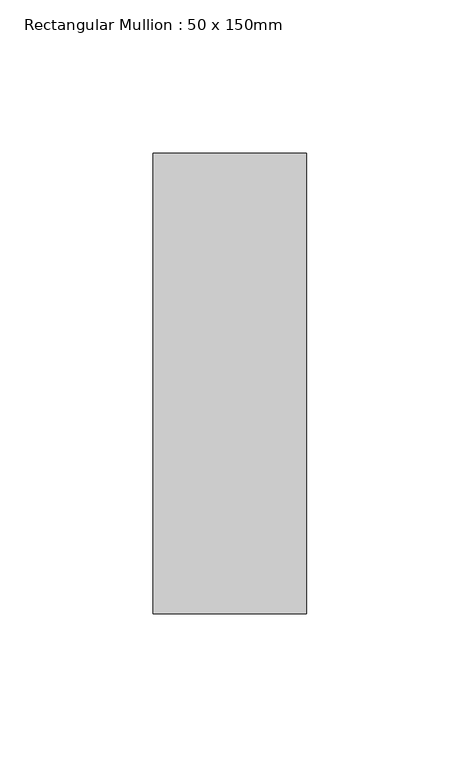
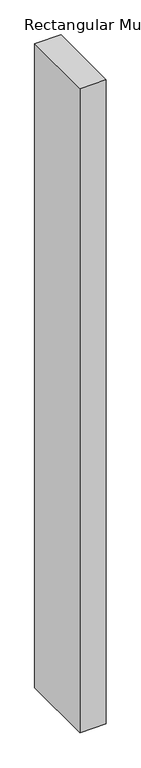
"""IFC4 building model written with IfcOpenShell, lengths in millimetres: member geometry, Rectangular Mullion : 50 x 150mm."""

from ifc_helpers import new_model, si_unit, frame, origin, place, context, project, spatial, polyline, outline, extrude, source, transform, mapped, element, save


def rectangular_mullion_50_x_150mm_c30a9d19(model_context):
    return source(origin(), model_context, "Body", "SweptSolid", [
        extrude(outline(polyline([(0.0, 75.0), (0.0, -75.0), (-50.0, -75.0), (-50.0, 75.0), (0.0, 75.0)])), frame((0.0, 0.0, -1302.5212096), z_axis=(0.0, 0.0, 1.0), x_axis=(1.0, 0.0, 0.0)), (0.0, 0.0, 1.0), 1302.5212096),
    ])


if __name__ == "__main__":
    model = new_model("IFC4")
    model_context = context("Model", 3, world=origin())
    ifc_project = project(units=[si_unit("LENGTHUNIT", "METRE", prefix="MILLI")], contexts=[model_context])
    site = spatial("IfcSite", under=ifc_project)
    building = spatial("IfcBuilding", under=site)
    placement = place(None, origin())
    rectangular_mullion_50_x_150mm_shape = rectangular_mullion_50_x_150mm_c30a9d19(model_context)
    element("IfcMember", 1, ObjectType="Rectangular Mullion : 50 x 150mm", at=placement, inside=building, context=model_context, shape_type="MappedRepresentation", body=[
        mapped(rectangular_mullion_50_x_150mm_shape, transform((0.0, 0.0, 0.0), x_axis=(1.0, 0.0, 0.0), y_axis=(0.0, 1.0, 0.0), z_axis=(0.0, 0.0, 1.0))),
    ])
    save(model, "model.ifc")
